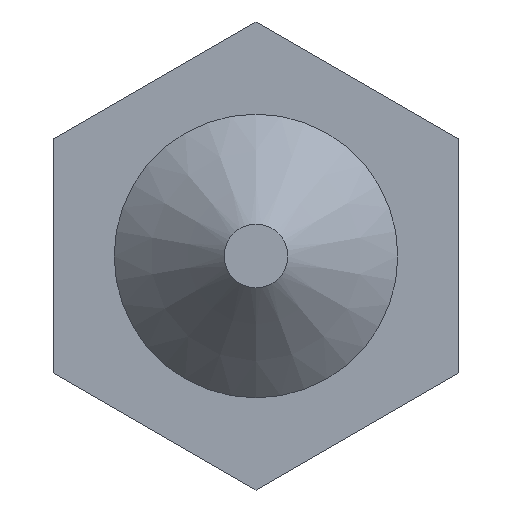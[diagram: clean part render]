
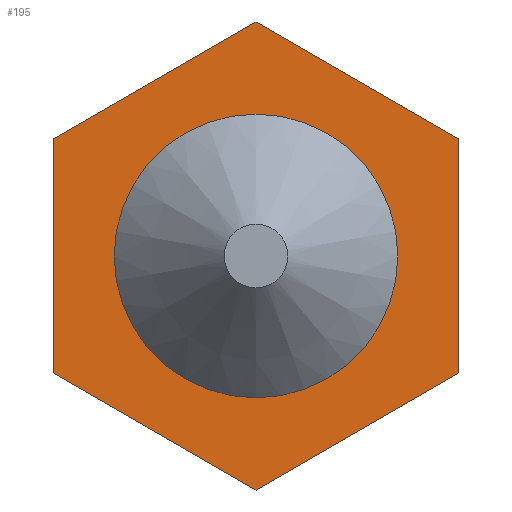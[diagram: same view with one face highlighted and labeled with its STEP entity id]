
A CAD part, front view. The second image highlights one B-rep face of the part: STEP entity #195.
In plain terms, the highlighted planar face has unit normal (0, -1, 0).
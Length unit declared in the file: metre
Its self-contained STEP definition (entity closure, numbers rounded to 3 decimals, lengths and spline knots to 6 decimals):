
#15=CIRCLE('',#224,0.004445);
#46=ORIENTED_EDGE('',*,*,#86,.F.);
#47=ORIENTED_EDGE('',*,*,#68,.T.);
#48=ORIENTED_EDGE('',*,*,#72,.T.);
#49=ORIENTED_EDGE('',*,*,#75,.T.);
#50=ORIENTED_EDGE('',*,*,#78,.T.);
#51=ORIENTED_EDGE('',*,*,#81,.T.);
#52=ORIENTED_EDGE('',*,*,#83,.T.);
#68=EDGE_CURVE('',#92,#91,#108,.T.);
#72=EDGE_CURVE('',#91,#94,#112,.T.);
#75=EDGE_CURVE('',#94,#96,#115,.T.);
#78=EDGE_CURVE('',#96,#98,#118,.T.);
#81=EDGE_CURVE('',#98,#100,#121,.T.);
#83=EDGE_CURVE('',#100,#92,#123,.T.);
#86=EDGE_CURVE('',#103,#103,#15,.T.);
#91=VERTEX_POINT('',#294);
#92=VERTEX_POINT('',#296);
#94=VERTEX_POINT('',#302);
#96=VERTEX_POINT('',#308);
#98=VERTEX_POINT('',#314);
#100=VERTEX_POINT('',#320);
#103=VERTEX_POINT('',#332);
#108=LINE('',#295,#126);
#112=LINE('',#303,#130);
#115=LINE('',#309,#133);
#118=LINE('',#315,#136);
#121=LINE('',#321,#139);
#123=LINE('',#324,#141);
#126=VECTOR('',#238,1.);
#130=VECTOR('',#244,1.);
#133=VECTOR('',#249,1.);
#136=VECTOR('',#254,1.);
#139=VECTOR('',#259,1.);
#141=VECTOR('',#263,1.);
#150=EDGE_LOOP('',(#46));
#151=EDGE_LOOP('',(#47,#48,#49,#50,#51,#52));
#168=FACE_BOUND('',#150,.T.);
#169=FACE_BOUND('',#151,.T.);
#184=PLANE('',#223);
#195=ADVANCED_FACE('',(#168,#169),#184,.T.);
#223=AXIS2_PLACEMENT_3D('',#330,#270,#271);
#224=AXIS2_PLACEMENT_3D('',#331,#272,#273);
#238=DIRECTION('',(0.866,0.,0.5));
#244=DIRECTION('',(0.,0.,1.));
#249=DIRECTION('',(-0.866,0.,0.5));
#254=DIRECTION('',(-0.866,0.,-0.5));
#259=DIRECTION('',(0.,0.,-1.));
#263=DIRECTION('',(0.866,0.,-0.5));
#270=DIRECTION('',(0.,-1.,0.));
#271=DIRECTION('',(1.,0.,0.));
#272=DIRECTION('',(0.,-1.,0.));
#273=DIRECTION('',(0.,0.,-1.));
#294=CARTESIAN_POINT('',(0.00635,-0.36703,-0.003666));
#295=CARTESIAN_POINT('',(0.003175,-0.36703,-0.005499));
#296=CARTESIAN_POINT('',(0.,-0.36703,-0.007332));
#302=CARTESIAN_POINT('',(0.00635,-0.36703,0.003666));
#303=CARTESIAN_POINT('',(0.00635,-0.36703,0.));
#308=CARTESIAN_POINT('',(0.,-0.36703,0.007332));
#309=CARTESIAN_POINT('',(0.003175,-0.36703,0.005499));
#314=CARTESIAN_POINT('',(-0.00635,-0.36703,0.003666));
#315=CARTESIAN_POINT('',(-0.003175,-0.36703,0.005499));
#320=CARTESIAN_POINT('',(-0.00635,-0.36703,-0.003666));
#321=CARTESIAN_POINT('',(-0.00635,-0.36703,0.));
#324=CARTESIAN_POINT('',(-0.003175,-0.36703,-0.005499));
#330=CARTESIAN_POINT('',(0.,-0.36703,0.));
#331=CARTESIAN_POINT('',(0.,-0.36703,0.));
#332=CARTESIAN_POINT('',(0.,-0.36703,-0.004445));
